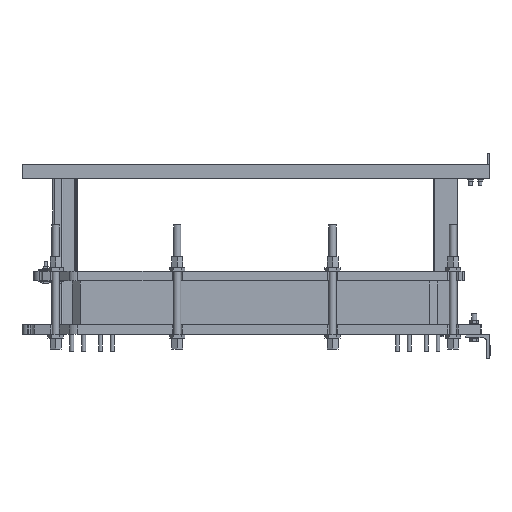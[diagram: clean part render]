
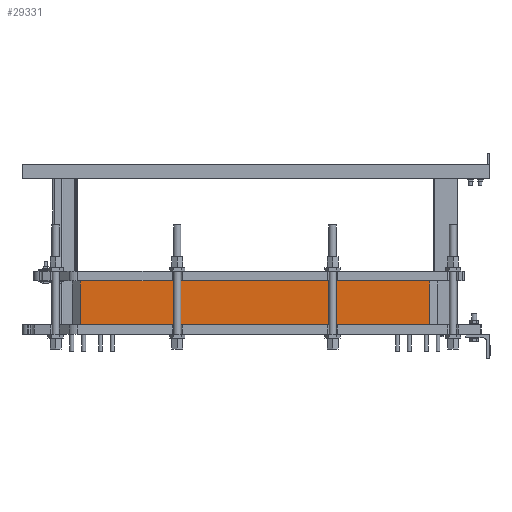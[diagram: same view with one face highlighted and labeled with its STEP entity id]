
A CAD part, left-side view. The second image highlights one B-rep face of the part: STEP entity #29331.
In plain terms, the highlighted planar face has unit normal (-1, 0, 0).
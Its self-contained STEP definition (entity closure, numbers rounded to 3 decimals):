
#21680=CARTESIAN_POINT('',(-187.5,705.0,220.0));
#21681=VERTEX_POINT('',#21680);
#21688=CARTESIAN_POINT('',(-187.5,-731.0,220.0));
#21689=VERTEX_POINT('',#21688);
#21690=CARTESIAN_POINT('',(-187.5,-731.0,220.0));
#21691=DIRECTION('',(0.0,1.0,0.0));
#21692=VECTOR('',#21691,1436.0);
#21693=LINE('',#21690,#21692);
#21694=EDGE_CURVE('',#21689,#21681,#21693,.T.);
#28280=CARTESIAN_POINT('',(-187.5,-731.0,40.0));
#28281=VERTEX_POINT('',#28280);
#28288=CARTESIAN_POINT('',(-187.5,705.0,40.0));
#28289=VERTEX_POINT('',#28288);
#28290=CARTESIAN_POINT('',(-187.5,-731.0,40.0));
#28291=DIRECTION('',(0.0,1.0,0.0));
#28292=VECTOR('',#28291,1436.0);
#28293=LINE('',#28290,#28292);
#28294=EDGE_CURVE('',#28281,#28289,#28293,.T.);
#29306=CARTESIAN_POINT('',(-187.5,705.0,40.0));
#29307=DIRECTION('',(0.0,0.0,1.0));
#29308=VECTOR('',#29307,180.0);
#29309=LINE('',#29306,#29308);
#29310=EDGE_CURVE('',#28289,#21681,#29309,.T.);
#29315=CARTESIAN_POINT('',(-187.5,-731.0,40.0));
#29316=DIRECTION('',(-1.0,0.0,0.0));
#29317=DIRECTION('',(0.0,0.0,1.0));
#29318=AXIS2_PLACEMENT_3D('',#29315,#29316,#29317);
#29319=PLANE('',#29318);
#29320=ORIENTED_EDGE('',*,*,#21694,.T.);
#29321=ORIENTED_EDGE('',*,*,#29310,.F.);
#29322=ORIENTED_EDGE('',*,*,#28294,.F.);
#29323=CARTESIAN_POINT('',(-187.5,-731.0,40.0));
#29324=DIRECTION('',(0.0,0.0,1.0));
#29325=VECTOR('',#29324,180.0);
#29326=LINE('',#29323,#29325);
#29327=EDGE_CURVE('',#28281,#21689,#29326,.T.);
#29328=ORIENTED_EDGE('',*,*,#29327,.T.);
#29329=EDGE_LOOP('',(#29320,#29321,#29322,#29328));
#29330=FACE_OUTER_BOUND('',#29329,.T.);
#29331=ADVANCED_FACE('',(#29330),#29319,.T.);
